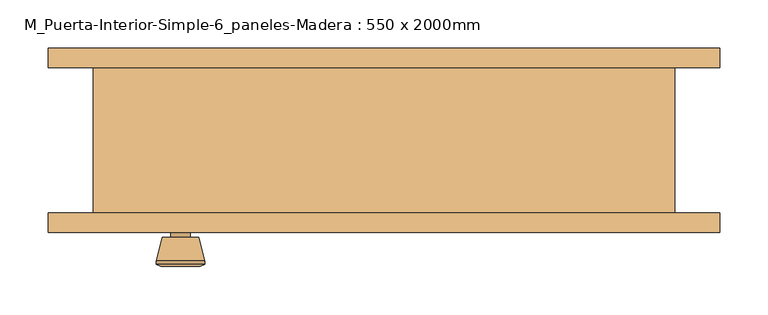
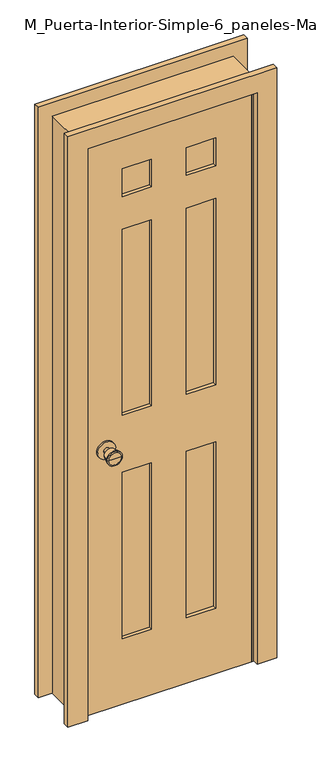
"""IFC4 building model written with IfcOpenShell, lengths in millimetres: door geometry, M_Puerta-Interior-Simple-6_paneles-Madera : 550 x 2000mm."""

from ifc_helpers import new_model, si_unit, point, frame, frame_2d, origin, place, context, project, spatial, polyline, circle_curve, trimmed, segment, composite_curve, outline, extrude, faceted_brep, source, transform, mapped, element, save
from ifc_brep_helpers import plane_surface, cylinder_surface, revolved_surface, advanced_brep


def m_puerta_interior_simple_6_paneles_madera_550_x_2000mm_48b77f4a(model_context):
    return source(origin(), model_context, "Body", "SolidModel", [
        advanced_brep(
        [(-210.0, -30.825, 914.4), (-220.0, -30.825, 914.4), (-200.0, -30.825, 914.4), (-189.5241324, 18.175, 914.4), (-230.4758676, 18.175, 914.4), (-210.0, 18.175, 914.4), (-185.0, 16.3471319, 914.4), (-235.0, 16.3471319, 914.4), (-185.0, 12.8834537, 914.4), (-235.0, 12.8834537, 914.4), (-191.363764, -11.825, 914.4), (-228.636236, -11.825, 914.4), (-200.0, -11.825, 914.4), (-220.0, -11.825, 914.4)],
        [
            (0, 1),
            (1, 2, circle_curve(frame((-210.0, -30.825, 914.4), z_axis=(0.0, -1.0, 0.0), x_axis=(-1.0, 0.0, 0.0)), 10.0)),
            (2, 0),
            (2, 1, circle_curve(frame((-210.0, -30.825, 914.4), z_axis=(0.0, -1.0, 0.0), x_axis=(-1.0, 0.0, 0.0)), 10.0)),
            (3, 4, circle_curve(frame((-210.0, 18.175, 914.4), z_axis=(0.0, 1.0, 0.0), x_axis=(-1.0, 0.0, 0.0)), 20.4758676)),
            (4, 5),
            (5, 3),
            (4, 3, circle_curve(frame((-210.0, 18.175, 914.4), z_axis=(0.0, 1.0, 0.0), x_axis=(-1.0, 0.0, 0.0)), 20.4758676)),
            (6, 7, circle_curve(frame((-210.0, 16.3471319, 914.4), z_axis=(0.0, 1.0, 0.0), x_axis=(-1.0, 0.0, 0.0)), 25.0)),
            (7, 4),
            (3, 6),
            (7, 6, circle_curve(frame((-210.0, 16.3471319, 914.4), z_axis=(0.0, 1.0, 0.0), x_axis=(-1.0, 0.0, 0.0)), 25.0)),
            (8, 9, circle_curve(frame((-210.0, 12.8834537, 914.4), z_axis=(0.0, 1.0, 0.0), x_axis=(-1.0, 0.0, 0.0)), 25.0)),
            (9, 7),
            (6, 8),
            (9, 8, circle_curve(frame((-210.0, 12.8834537, 914.4), z_axis=(0.0, 1.0, 0.0), x_axis=(-1.0, 0.0, 0.0)), 25.0)),
            (10, 11, circle_curve(frame((-210.0, -11.825, 914.4), z_axis=(0.0, 1.0, 0.0), x_axis=(-1.0, 0.0, 0.0)), 18.636236)),
            (11, 9),
            (8, 10),
            (11, 10, circle_curve(frame((-210.0, -11.825, 914.4), z_axis=(0.0, 1.0, 0.0), x_axis=(-1.0, 0.0, 0.0)), 18.636236)),
            (12, 13, circle_curve(frame((-210.0, -11.825, 914.4), z_axis=(0.0, 1.0, 0.0), x_axis=(-1.0, 0.0, 0.0)), 10.0)),
            (13, 11),
            (10, 12),
            (13, 12, circle_curve(frame((-210.0, -11.825, 914.4), z_axis=(0.0, 1.0, 0.0), x_axis=(-1.0, 0.0, 0.0)), 10.0)),
            (1, 13),
            (12, 2),
        ],
        [
            plane_surface(frame((-210.0, -30.825, 914.4), z_axis=(0.0, -1.0, 0.0), x_axis=(-1.0, 0.0, 0.0))),
            plane_surface(frame((-210.0, 18.175, 914.4), z_axis=(0.0, 1.0, 0.0), x_axis=(-1.0, 0.0, 0.0))),
            revolved_surface(polyline([(-230.4758676, 18.175, 914.4), (-235.0, 16.3471319, 914.4)]), (-210.0, -30.825, 914.4), (0.0, -1.0, 0.0)),
            cylinder_surface(frame((-210.0, -30.825, 914.4), z_axis=(0.0, -1.0, 0.0), x_axis=(-1.0, 0.0, 0.0)), 25.0),
            revolved_surface(polyline([(-235.0, 12.8834537, 914.4), (-228.636236, -11.825, 914.4)]), (-210.0, -30.825, 914.4), (0.0, -1.0, 0.0)),
            plane_surface(frame((-210.0, -11.825, 914.4), z_axis=(0.0, -1.0, 0.0), x_axis=(-1.0, 0.0, 0.0))),
            cylinder_surface(frame((-210.0, -30.825, 914.4), z_axis=(0.0, -1.0, 0.0), x_axis=(-1.0, 0.0, 0.0)), 10.0),
        ],
        [
            (0, [[1, 2, 3]]),
            (0, [[-3, 4, -1]]),
            (1, [[5, 6, 7]]),
            (1, [[8, -7, -6]]),
            (2, [[9, 10, -5, 11]]),
            (2, [[12, -11, -8, -10]]),
            (3, [[13, 14, -9, 15]]),
            (3, [[16, -15, -12, -14]]),
            (4, [[17, 18, -13, 19]]),
            (4, [[20, -19, -16, -18]]),
            (5, [[21, 22, -17, 23]]),
            (5, [[24, -23, -20, -22]]),
            (6, [[-2, 25, -21, 26]]),
            (6, [[-4, -26, -24, -25]]),
        ],
    ),
        extrude(outline(composite_curve([segment(trimmed(circle_curve(frame_2d((914.4, -210.0)), 30.0), [point((914.4, -240.0))], [point((914.4, -180.0))], False, "CARTESIAN"), True, "CONTINUOUS"), segment(trimmed(circle_curve(frame_2d((914.4, -210.0)), 30.0), [point((914.4, -180.0))], [point((914.4, -240.0))], False, "CARTESIAN"), True, "CONTINUOUS")], self_intersect=False)), frame((0.0, -36.825, 0.0), z_axis=(0.0, 1.0, 0.0), x_axis=(0.0, 0.0, 1.0)), (0.0, 0.0, 1.0), 6.0),
        advanced_brep(
        [(-210.0, -77.825, 914.4), (-200.0, -77.825, 914.4), (-220.0, -77.825, 914.4), (-189.5241324, -126.825, 914.4), (-210.0, -126.825, 914.4), (-230.4758676, -126.825, 914.4), (-185.0, -124.9971319, 914.4), (-235.0, -124.9971319, 914.4), (-185.0, -121.5334537, 914.4), (-235.0, -121.5334537, 914.4), (-191.363764, -96.825, 914.4), (-228.636236, -96.825, 914.4), (-200.0, -96.825, 914.4), (-220.0, -96.825, 914.4)],
        [
            (0, 1),
            (1, 2, circle_curve(frame((-210.0, -77.825, 914.4), z_axis=(0.0, 1.0, 0.0), x_axis=(-1.0, 0.0, 0.0)), 10.0)),
            (2, 0),
            (2, 1, circle_curve(frame((-210.0, -77.825, 914.4), z_axis=(0.0, 1.0, 0.0), x_axis=(-1.0, 0.0, 0.0)), 10.0)),
            (3, 4),
            (4, 5),
            (5, 3, circle_curve(frame((-210.0, -126.825, 914.4), z_axis=(0.0, -1.0, 0.0), x_axis=(-1.0, 0.0, 0.0)), 20.4758676)),
            (3, 5, circle_curve(frame((-210.0, -126.825, 914.4), z_axis=(0.0, -1.0, 0.0), x_axis=(-1.0, 0.0, 0.0)), 20.4758676)),
            (6, 3),
            (5, 7),
            (7, 6, circle_curve(frame((-210.0, -124.9971319, 914.4), z_axis=(0.0, -1.0, 0.0), x_axis=(-1.0, 0.0, 0.0)), 25.0)),
            (6, 7, circle_curve(frame((-210.0, -124.9971319, 914.4), z_axis=(0.0, -1.0, 0.0), x_axis=(-1.0, 0.0, 0.0)), 25.0)),
            (8, 6),
            (7, 9),
            (9, 8, circle_curve(frame((-210.0, -121.5334537, 914.4), z_axis=(0.0, -1.0, 0.0), x_axis=(-1.0, 0.0, 0.0)), 25.0)),
            (8, 9, circle_curve(frame((-210.0, -121.5334537, 914.4), z_axis=(0.0, -1.0, 0.0), x_axis=(-1.0, 0.0, 0.0)), 25.0)),
            (10, 8),
            (9, 11),
            (11, 10, circle_curve(frame((-210.0, -96.825, 914.4), z_axis=(0.0, -1.0, 0.0), x_axis=(-1.0, 0.0, 0.0)), 18.636236)),
            (10, 11, circle_curve(frame((-210.0, -96.825, 914.4), z_axis=(0.0, -1.0, 0.0), x_axis=(-1.0, 0.0, 0.0)), 18.636236)),
            (12, 10),
            (11, 13),
            (13, 12, circle_curve(frame((-210.0, -96.825, 914.4), z_axis=(0.0, -1.0, 0.0), x_axis=(-1.0, 0.0, 0.0)), 10.0)),
            (12, 13, circle_curve(frame((-210.0, -96.825, 914.4), z_axis=(0.0, -1.0, 0.0), x_axis=(-1.0, 0.0, 0.0)), 10.0)),
            (1, 12),
            (13, 2),
        ],
        [
            plane_surface(frame((-210.0, -77.825, 914.4), z_axis=(0.0, 1.0, 0.0), x_axis=(-1.0, 0.0, 0.0))),
            plane_surface(frame((-210.0, -126.825, 914.4), z_axis=(0.0, -1.0, 0.0), x_axis=(-1.0, 0.0, 0.0))),
            revolved_surface(polyline([(-230.4758676, -126.825, 914.4), (-235.0, -124.9971319, 914.4)]), (-210.0, -77.825, 914.4), (0.0, 1.0, 0.0)),
            cylinder_surface(frame((-210.0, -77.825, 914.4), z_axis=(0.0, 1.0, 0.0), x_axis=(-1.0, 0.0, 0.0)), 25.0),
            revolved_surface(polyline([(-235.0, -121.5334537, 914.4), (-228.636236, -96.825, 914.4)]), (-210.0, -77.825, 914.4), (0.0, 1.0, 0.0)),
            plane_surface(frame((-210.0, -96.825, 914.4), z_axis=(0.0, 1.0, 0.0), x_axis=(-1.0, 0.0, 0.0))),
            cylinder_surface(frame((-210.0, -77.825, 914.4), z_axis=(0.0, 1.0, 0.0), x_axis=(-1.0, 0.0, 0.0)), 10.0),
        ],
        [
            (0, [[1, 2, 3]]),
            (0, [[-3, 4, -1]]),
            (1, [[5, 6, 7]]),
            (1, [[-6, -5, 8]]),
            (2, [[9, -7, 10, 11]]),
            (2, [[-10, -8, -9, 12]]),
            (3, [[13, -11, 14, 15]]),
            (3, [[-14, -12, -13, 16]]),
            (4, [[17, -15, 18, 19]]),
            (4, [[-18, -16, -17, 20]]),
            (5, [[21, -19, 22, 23]]),
            (5, [[-22, -20, -21, 24]]),
            (6, [[25, -23, 26, -2]]),
            (6, [[-26, -24, -25, -4]]),
        ],
    ),
        extrude(outline(composite_curve([segment(trimmed(circle_curve(frame_2d((914.4, -210.0)), 30.0), [point((914.4, -240.0))], [point((914.4, -180.0))], False, "CARTESIAN"), True, "CONTINUOUS"), segment(trimmed(circle_curve(frame_2d((914.4, -210.0)), 30.0), [point((914.4, -180.0))], [point((914.4, -240.0))], False, "CARTESIAN"), True, "CONTINUOUS")], self_intersect=False)), frame((0.0, -77.825, 0.0), z_axis=(0.0, 1.0, 0.0), x_axis=(0.0, 0.0, 1.0)), (0.0, 0.0, 1.0), 6.0),
        faceted_brep([(300.0, -71.825, 0.0), (275.0, -71.825, 0.0), (275.0, -36.825, 0.0), (262.3, -36.825, 0.0), (262.3, -1.9, 0.0), (275.0, -1.9, 0.0), (275.0, 78.175, 0.0), (300.0, 78.175, 0.0), (300.0, 78.175, 2025.0), (300.0, -71.825, 2025.0), (275.0, 78.175, 2000.0), (-275.0, 78.175, 2000.0), (-275.0, 78.175, 0.0), (-300.0, 78.175, 0.0), (-300.0, 78.175, 2025.0), (275.0, -1.9, 2000.0), (262.3, -1.9, 1987.3), (-262.3, -1.9, 1987.3), (-262.3, -1.9, 0.0), (-275.0, -1.9, 0.0), (-275.0, -1.9, 2000.0), (262.3, -36.825, 1987.3), (275.0, -36.825, 2000.0), (-275.0, -36.825, 2000.0), (-275.0, -36.825, 0.0), (-262.3, -36.825, 0.0), (-262.3, -36.825, 1987.3), (275.0, -71.825, 2000.0), (-300.0, -71.825, 2025.0), (-300.0, -71.825, 0.0), (-275.0, -71.825, 0.0), (-275.0, -71.825, 2000.0)], [[[0, 1, 2, 3, 4, 5, 6, 7]], [[7, 8, 9, 0]], [[6, 10, 11, 12, 13, 14, 8, 7]], [[5, 15, 10, 6]], [[4, 16, 17, 18, 19, 20, 15, 5]], [[3, 21, 16, 4]], [[2, 22, 23, 24, 25, 26, 21, 3]], [[1, 27, 22, 2]], [[0, 9, 28, 29, 30, 31, 27, 1]], [[8, 14, 28, 9]], [[15, 20, 11, 10]], [[21, 26, 17, 16]], [[27, 31, 23, 22]], [[29, 13, 12, 19, 18, 25, 24, 30]], [[14, 13, 29, 28]], [[20, 19, 12, 11]], [[26, 25, 18, 17]], [[31, 30, 24, 23]]]),
        extrude(outline(polyline([(2000.0, -275.0), (0.0, -275.0), (0.0, 275.0), (2000.0, 275.0), (2000.0, -275.0)]), holes=[polyline([(1880.0, 57.5), (1880.0, 155.0), (1782.5, 155.0), (1782.5, 57.5), (1880.0, 57.5)]), polyline([(1667.5, 155.0), (1014.4, 155.0), (1014.4, 57.5), (1667.5, 57.5), (1667.5, 155.0)]), polyline([(1014.4, -57.5), (1014.4, -155.0), (1667.5, -155.0), (1667.5, -57.5), (1014.4, -57.5)]), polyline([(1782.5, -155.0), (1880.0, -155.0), (1880.0, -57.5), (1782.5, -57.5), (1782.5, -155.0)]), polyline([(814.4, 57.5), (814.4, 155.0), (230.0, 155.0), (230.0, 57.5), (814.4, 57.5)]), polyline([(230.0, -57.5), (230.0, -155.0), (814.4, -155.0), (814.4, -57.5), (230.0, -57.5)])]), frame((0.0, -71.825, 0.0), z_axis=(0.0, 1.0, 0.0), x_axis=(0.0, 0.0, 1.0)), (0.0, 0.0, 1.0), 35.0),
        extrude(outline(polyline([(155.0, -48.4916667), (155.0, -60.1583333), (57.5, -60.1583333), (57.5, -48.4916667), (155.0, -48.4916667)])), frame((0.0, 0.0, 1782.5), z_axis=(0.0, 0.0, 1.0), x_axis=(1.0, 0.0, 0.0)), (0.0, 0.0, 1.0), 97.5),
        extrude(outline(polyline([(155.0, -48.4916667), (155.0, -60.1583333), (57.5, -60.1583333), (57.5, -48.4916667), (155.0, -48.4916667)])), frame((0.0, 0.0, 1014.4), z_axis=(0.0, 0.0, 1.0), x_axis=(1.0, 0.0, 0.0)), (0.0, 0.0, 1.0), 653.1),
        extrude(outline(polyline([(-57.5, -48.4916667), (-57.5, -60.1583333), (-155.0, -60.1583333), (-155.0, -48.4916667), (-57.5, -48.4916667)])), frame((0.0, 0.0, 1014.4), z_axis=(0.0, 0.0, 1.0), x_axis=(1.0, 0.0, 0.0)), (0.0, 0.0, 1.0), 653.1),
        extrude(outline(polyline([(-57.5, -48.4916667), (-57.5, -60.1583333), (-155.0, -60.1583333), (-155.0, -48.4916667), (-57.5, -48.4916667)])), frame((0.0, 0.0, 1782.5), z_axis=(0.0, 0.0, 1.0), x_axis=(1.0, 0.0, 0.0)), (0.0, 0.0, 1.0), 97.5),
        extrude(outline(polyline([(155.0, -48.4916667), (155.0, -60.1583333), (57.5, -60.1583333), (57.5, -48.4916667), (155.0, -48.4916667)])), frame((0.0, 0.0, 230.0), z_axis=(0.0, 0.0, 1.0), x_axis=(1.0, 0.0, 0.0)), (0.0, 0.0, 1.0), 584.4),
        extrude(outline(polyline([(-57.5, -48.4916667), (-57.5, -60.1583333), (-155.0, -60.1583333), (-155.0, -48.4916667), (-57.5, -48.4916667)])), frame((0.0, 0.0, 230.0), z_axis=(0.0, 0.0, 1.0), x_axis=(1.0, 0.0, 0.0)), (0.0, 0.0, 1.0), 584.4),
        extrude(outline(polyline([(0.0, 346.35), (2071.35, 346.35), (2071.35, -346.35), (0.0, -346.35), (0.0, -281.35), (2006.35, -281.35), (2006.35, 281.35), (0.0, 281.35), (0.0, 346.35)])), frame((0.0, -91.825, 0.0), z_axis=(0.0, 1.0, 0.0), x_axis=(0.0, 0.0, 1.0)), (0.0, 0.0, 1.0), 20.0),
        extrude(outline(polyline([(0.0, 346.35), (2071.35, 346.35), (2071.35, -346.35), (0.0, -346.35), (0.0, -281.35), (2006.35, -281.35), (2006.35, 281.35), (0.0, 281.35), (0.0, 346.35)])), frame((0.0, 78.175, 0.0), z_axis=(0.0, 1.0, 0.0), x_axis=(0.0, 0.0, 1.0)), (0.0, 0.0, 1.0), 20.0),
    ])


if __name__ == "__main__":
    model = new_model("IFC4")
    model_context = context("Model", 3, world=origin())
    ifc_project = project(units=[si_unit("LENGTHUNIT", "METRE", prefix="MILLI")], contexts=[model_context])
    site = spatial("IfcSite", under=ifc_project)
    building = spatial("IfcBuilding", under=site)
    placement = place(None, origin())
    m_puerta_interior_simple_6_paneles_madera_550_x_2000mm_shape = m_puerta_interior_simple_6_paneles_madera_550_x_2000mm_48b77f4a(model_context)
    element("IfcDoor", 1, ObjectType="M_Puerta-Interior-Simple-6_paneles-Madera : 550 x 2000mm", at=placement, inside=building, context=model_context, shape_type="MappedRepresentation", body=[
        mapped(m_puerta_interior_simple_6_paneles_madera_550_x_2000mm_shape, transform((0.0, 0.0, 0.0), x_axis=(1.0, 0.0, 0.0), y_axis=(0.0, 1.0, 0.0), z_axis=(0.0, 0.0, 1.0))),
    ])
    save(model, "model.ifc")
